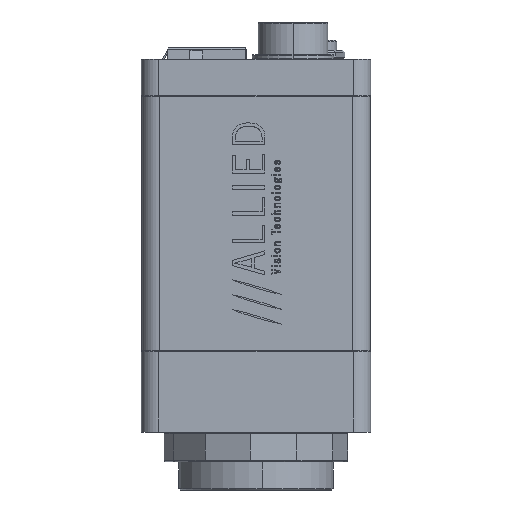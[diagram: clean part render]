
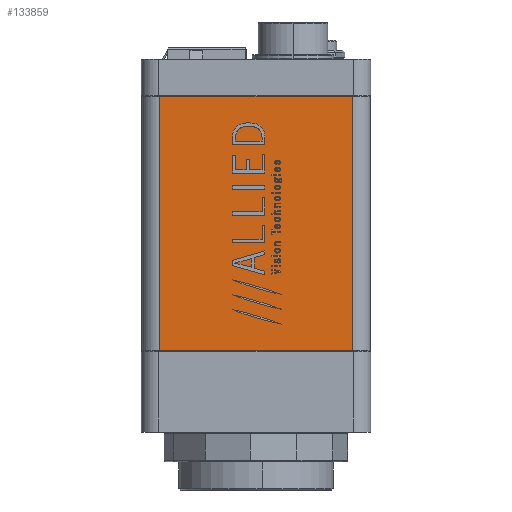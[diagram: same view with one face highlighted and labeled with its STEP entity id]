
A CAD part, left-side view. The second image highlights one B-rep face of the part: STEP entity #133859.
In plain terms, the highlighted planar face has unit normal (-1, 0, 0).
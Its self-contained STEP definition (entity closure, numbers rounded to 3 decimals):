
#2578 = EDGE_CURVE ( 'NONE', #189679, #109558, #55570, .T. ) ;
#8866 = CARTESIAN_POINT ( 'NONE',  ( -25.714, -16.558, 43.65 ) ) ;
#19423 = ORIENTED_EDGE ( 'NONE', *, *, #119810, .T. ) ;
#24934 = EDGE_LOOP ( 'NONE', ( #182800, #138921, #19423, #175761 ) ) ;
#31911 = LINE ( 'NONE', #59599, #111088 ) ;
#50524 = VECTOR ( 'NONE', #148619, 1000. ) ;
#54006 = DIRECTION ( 'NONE',  ( -1., 0., 0. ) ) ;
#55570 = LINE ( 'NONE', #149483, #50524 ) ;
#57298 = VERTEX_POINT ( 'NONE', #138017 ) ;
#59599 = CARTESIAN_POINT ( 'NONE',  ( -25.714, 16.558, 108.336 ) ) ;
#63940 = DIRECTION ( 'NONE',  ( 0., 0., 1. ) ) ;
#67883 = CARTESIAN_POINT ( 'NONE',  ( -25.714, -16.558, 0. ) ) ;
#75562 = DIRECTION ( 'NONE',  ( 0., 0., 1. ) ) ;
#79874 = CARTESIAN_POINT ( 'NONE',  ( -25.714, -16.558, 108.336 ) ) ;
#81542 = DIRECTION ( 'NONE',  ( 0., 1., 0. ) ) ;
#95170 = CARTESIAN_POINT ( 'NONE',  ( -25.714, 16.558, 43.65 ) ) ;
#103644 = EDGE_CURVE ( 'NONE', #57298, #189679, #31911, .T. ) ;
#109558 = VERTEX_POINT ( 'NONE', #8866 ) ;
#111088 = VECTOR ( 'NONE', #75562, 1000. ) ;
#111984 = EDGE_CURVE ( 'NONE', #156528, #57298, #173148, .T. ) ;
#119810 = EDGE_CURVE ( 'NONE', #156528, #109558, #123995, .T. ) ;
#123995 = LINE ( 'NONE', #79874, #200518 ) ;
#131967 = VECTOR ( 'NONE', #81542, 1000. ) ;
#133859 = ADVANCED_FACE ( 'NONE', ( #196985 ), #147594, .T. ) ;
#138017 = CARTESIAN_POINT ( 'NONE',  ( -25.714, 16.558, 0. ) ) ;
#138921 = ORIENTED_EDGE ( 'NONE', *, *, #111984, .F. ) ;
#147594 = PLANE ( 'NONE',  #177981 ) ;
#148248 = CARTESIAN_POINT ( 'NONE',  ( -25.714, 16.558, 108.336 ) ) ;
#148619 = DIRECTION ( 'NONE',  ( 0., -1., 0. ) ) ;
#149483 = CARTESIAN_POINT ( 'NONE',  ( -25.714, 16.558, 43.65 ) ) ;
#156528 = VERTEX_POINT ( 'NONE', #67883 ) ;
#163765 = DIRECTION ( 'NONE',  ( 0., 0., 1. ) ) ;
#173148 = LINE ( 'NONE', #175029, #131967 ) ;
#175029 = CARTESIAN_POINT ( 'NONE',  ( -25.714, -16.558, 0. ) ) ;
#175761 = ORIENTED_EDGE ( 'NONE', *, *, #2578, .F. ) ;
#177981 = AXIS2_PLACEMENT_3D ( 'NONE', #148248, #54006, #163765 ) ;
#182800 = ORIENTED_EDGE ( 'NONE', *, *, #103644, .F. ) ;
#189679 = VERTEX_POINT ( 'NONE', #95170 ) ;
#196985 = FACE_OUTER_BOUND ( 'NONE', #24934, .T. ) ;
#200518 = VECTOR ( 'NONE', #63940, 1000. ) ;
